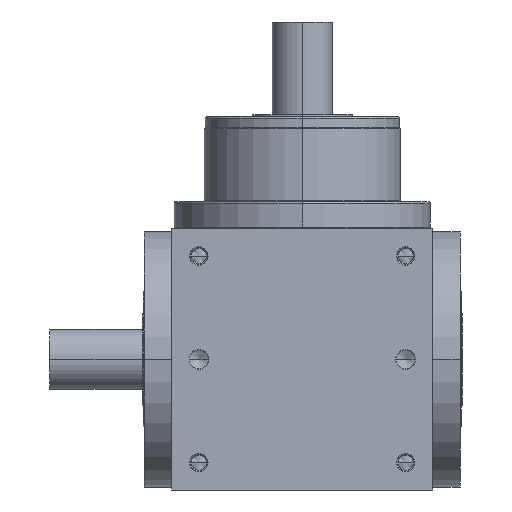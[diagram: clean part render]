
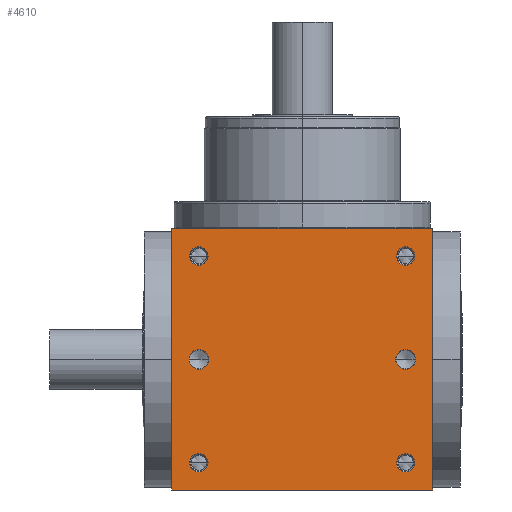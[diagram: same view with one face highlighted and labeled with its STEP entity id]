
A CAD part, front view. The second image highlights one B-rep face of the part: STEP entity #4610.
In plain terms, the highlighted planar face has unit normal (0, -1, 0).
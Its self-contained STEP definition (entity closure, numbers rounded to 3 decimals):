
#5=DIRECTION('',(1.,0.,0.));
#6=VECTOR('',#5,240.);
#7=CARTESIAN_POINT('',(-120.,-120.,-120.));
#8=LINE('',#7,#6);
#155=DIRECTION('',(0.,0.,1.));
#156=VECTOR('',#155,240.);
#157=CARTESIAN_POINT('',(120.,-120.,-120.));
#158=LINE('',#157,#156);
#209=DIRECTION('',(0.,0.,1.));
#210=VECTOR('',#209,240.);
#211=CARTESIAN_POINT('',(-120.,-120.,-120.));
#212=LINE('',#211,#210);
#213=CARTESIAN_POINT('',(95.,-120.,95.));
#214=DIRECTION('',(0.,1.,0.));
#215=DIRECTION('',(-1.,0.,0.));
#216=AXIS2_PLACEMENT_3D('',#213,#214,#215);
#218=CARTESIAN_POINT('',(95.,-120.,95.));
#219=DIRECTION('',(0.,1.,0.));
#220=DIRECTION('',(1.,0.,0.));
#221=AXIS2_PLACEMENT_3D('',#218,#219,#220);
#223=CARTESIAN_POINT('',(-95.,-120.,95.));
#224=DIRECTION('',(0.,1.,0.));
#225=DIRECTION('',(-1.,0.,0.));
#226=AXIS2_PLACEMENT_3D('',#223,#224,#225);
#228=CARTESIAN_POINT('',(-95.,-120.,95.));
#229=DIRECTION('',(0.,1.,0.));
#230=DIRECTION('',(1.,0.,0.));
#231=AXIS2_PLACEMENT_3D('',#228,#229,#230);
#233=CARTESIAN_POINT('',(95.,-120.,-95.));
#234=DIRECTION('',(0.,1.,0.));
#235=DIRECTION('',(-1.,0.,0.));
#236=AXIS2_PLACEMENT_3D('',#233,#234,#235);
#238=CARTESIAN_POINT('',(95.,-120.,-95.));
#239=DIRECTION('',(0.,1.,0.));
#240=DIRECTION('',(1.,0.,0.));
#241=AXIS2_PLACEMENT_3D('',#238,#239,#240);
#243=CARTESIAN_POINT('',(-95.,-120.,-95.));
#244=DIRECTION('',(0.,1.,0.));
#245=DIRECTION('',(-1.,0.,0.));
#246=AXIS2_PLACEMENT_3D('',#243,#244,#245);
#248=CARTESIAN_POINT('',(-95.,-120.,-95.));
#249=DIRECTION('',(0.,1.,0.));
#250=DIRECTION('',(1.,0.,0.));
#251=AXIS2_PLACEMENT_3D('',#248,#249,#250);
#253=CARTESIAN_POINT('',(-95.,-120.,0.));
#254=DIRECTION('',(0.,1.,0.));
#255=DIRECTION('',(1.,0.,0.));
#256=AXIS2_PLACEMENT_3D('',#253,#254,#255);
#258=CARTESIAN_POINT('',(-95.,-120.,0.));
#259=DIRECTION('',(0.,1.,0.));
#260=DIRECTION('',(-1.,0.,0.));
#261=AXIS2_PLACEMENT_3D('',#258,#259,#260);
#263=CARTESIAN_POINT('',(95.,-120.,0.));
#264=DIRECTION('',(0.,1.,0.));
#265=DIRECTION('',(1.,0.,0.));
#266=AXIS2_PLACEMENT_3D('',#263,#264,#265);
#268=CARTESIAN_POINT('',(95.,-120.,0.));
#269=DIRECTION('',(0.,1.,0.));
#270=DIRECTION('',(-1.,0.,0.));
#271=AXIS2_PLACEMENT_3D('',#268,#269,#270);
#285=DIRECTION('',(1.,0.,0.));
#286=VECTOR('',#285,240.);
#287=CARTESIAN_POINT('',(-120.,-120.,120.));
#288=LINE('',#287,#286);
#3694=CARTESIAN_POINT('',(-120.,-120.,-120.));
#3696=VERTEX_POINT('',#3694);
#3697=CARTESIAN_POINT('',(120.,-120.,-120.));
#3698=VERTEX_POINT('',#3697);
#3702=CARTESIAN_POINT('',(-120.,-120.,120.));
#3704=VERTEX_POINT('',#3702);
#3705=CARTESIAN_POINT('',(120.,-120.,120.));
#3706=VERTEX_POINT('',#3705);
#3873=CARTESIAN_POINT('',(86.6,-120.,95.));
#3874=CARTESIAN_POINT('',(103.4,-120.,95.));
#3875=VERTEX_POINT('',#3873);
#3876=VERTEX_POINT('',#3874);
#3881=CARTESIAN_POINT('',(-103.4,-120.,95.));
#3882=CARTESIAN_POINT('',(-86.6,-120.,95.));
#3883=VERTEX_POINT('',#3881);
#3884=VERTEX_POINT('',#3882);
#3889=CARTESIAN_POINT('',(86.6,-120.,-95.));
#3890=CARTESIAN_POINT('',(103.4,-120.,-95.));
#3891=VERTEX_POINT('',#3889);
#3892=VERTEX_POINT('',#3890);
#3897=CARTESIAN_POINT('',(-103.4,-120.,-95.));
#3898=CARTESIAN_POINT('',(-86.6,-120.,-95.));
#3899=VERTEX_POINT('',#3897);
#3900=VERTEX_POINT('',#3898);
#4239=CARTESIAN_POINT('',(-85.95,-120.,
0.));
#4240=CARTESIAN_POINT('',(-104.05,-120.,
0.));
#4241=VERTEX_POINT('',#4239);
#4242=VERTEX_POINT('',#4240);
#4247=CARTESIAN_POINT('',(104.05,-120.,0.));
#4248=CARTESIAN_POINT('',(85.95,-120.,0.));
#4249=VERTEX_POINT('',#4247);
#4250=VERTEX_POINT('',#4248);
#4562=CARTESIAN_POINT('',(-120.,-120.,-120.));
#4563=DIRECTION('',(0.,-1.,0.));
#4564=DIRECTION('',(1.,0.,0.));
#4565=AXIS2_PLACEMENT_3D('',#4562,#4563,#4564);
#4566=PLANE('',#4565);
#4567=ORIENTED_EDGE('',*,*,#4402,.F.);
#4568=ORIENTED_EDGE('',*,*,#4445,.T.);
#4570=ORIENTED_EDGE('',*,*,#4569,.T.);
#4571=ORIENTED_EDGE('',*,*,#4524,.F.);
#4572=EDGE_LOOP('',(#4567,#4568,#4570,#4571));
#4573=FACE_OUTER_BOUND('',#4572,.F.);
#4575=ORIENTED_EDGE('',*,*,#4574,.F.);
#4577=ORIENTED_EDGE('',*,*,#4576,.F.);
#4578=EDGE_LOOP('',(#4575,#4577));
#4579=FACE_BOUND('',#4578,.F.);
#4581=ORIENTED_EDGE('',*,*,#4580,.F.);
#4583=ORIENTED_EDGE('',*,*,#4582,.F.);
#4584=EDGE_LOOP('',(#4581,#4583));
#4585=FACE_BOUND('',#4584,.F.);
#4587=ORIENTED_EDGE('',*,*,#4586,.F.);
#4589=ORIENTED_EDGE('',*,*,#4588,.F.);
#4590=EDGE_LOOP('',(#4587,#4589));
#4591=FACE_BOUND('',#4590,.F.);
#4593=ORIENTED_EDGE('',*,*,#4592,.F.);
#4595=ORIENTED_EDGE('',*,*,#4594,.F.);
#4596=EDGE_LOOP('',(#4593,#4595));
#4597=FACE_BOUND('',#4596,.F.);
#4599=ORIENTED_EDGE('',*,*,#4598,.F.);
#4601=ORIENTED_EDGE('',*,*,#4600,.F.);
#4602=EDGE_LOOP('',(#4599,#4601));
#4603=FACE_BOUND('',#4602,.F.);
#4605=ORIENTED_EDGE('',*,*,#4604,.F.);
#4607=ORIENTED_EDGE('',*,*,#4606,.F.);
#4608=EDGE_LOOP('',(#4605,#4607));
#4609=FACE_BOUND('',#4608,.F.);
#4610=ADVANCED_FACE('',(#4573,#4579,#4585,#4591,#4597,#4603,#4609),#4566,.T.);
#217=CIRCLE('',#216,8.4);
#222=CIRCLE('',#221,8.4);
#227=CIRCLE('',#226,8.4);
#232=CIRCLE('',#231,8.4);
#237=CIRCLE('',#236,8.4);
#242=CIRCLE('',#241,8.4);
#247=CIRCLE('',#246,8.4);
#252=CIRCLE('',#251,8.4);
#257=CIRCLE('',#256,9.05);
#262=CIRCLE('',#261,9.05);
#267=CIRCLE('',#266,9.05);
#272=CIRCLE('',#271,9.05);
#4402=EDGE_CURVE('',#3696,#3698,#8,.T.);
#4445=EDGE_CURVE('',#3696,#3704,#212,.T.);
#4524=EDGE_CURVE('',#3698,#3706,#158,.T.);
#4569=EDGE_CURVE('',#3704,#3706,#288,.T.);
#4574=EDGE_CURVE('',#3875,#3876,#217,.T.);
#4576=EDGE_CURVE('',#3876,#3875,#222,.T.);
#4580=EDGE_CURVE('',#3883,#3884,#227,.T.);
#4582=EDGE_CURVE('',#3884,#3883,#232,.T.);
#4586=EDGE_CURVE('',#3891,#3892,#237,.T.);
#4588=EDGE_CURVE('',#3892,#3891,#242,.T.);
#4592=EDGE_CURVE('',#3899,#3900,#247,.T.);
#4594=EDGE_CURVE('',#3900,#3899,#252,.T.);
#4598=EDGE_CURVE('',#4241,#4242,#257,.T.);
#4600=EDGE_CURVE('',#4242,#4241,#262,.T.);
#4604=EDGE_CURVE('',#4249,#4250,#267,.T.);
#4606=EDGE_CURVE('',#4250,#4249,#272,.T.);
